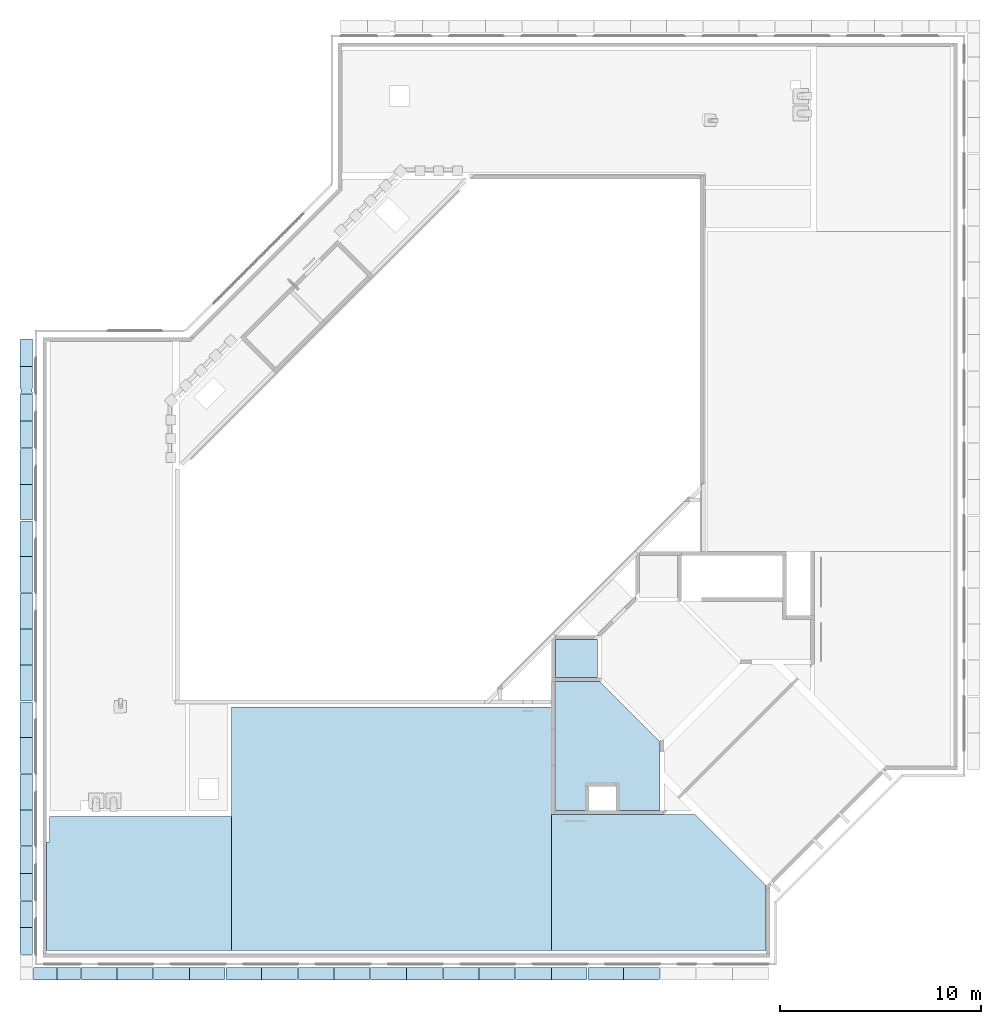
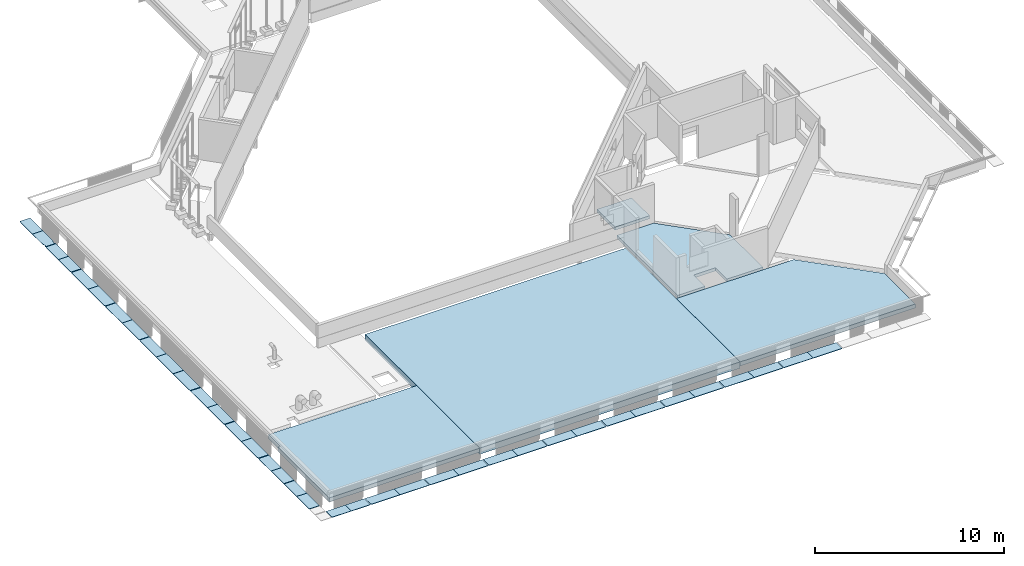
# One storey, part 5 of 37: 42 slabs.
"""IFC4X3_ADD2 building model written with IfcOpenShell, lengths in millimetres."""

from ifc_helpers import new_model, si_unit, direction, frame, frame_2d, origin_with_axes, origin_2d_with_axis, place, context, subcontext, project, spatial, polyline, rectangle, outline, extrude, material, type_object, element, save


model = new_model("IFC4X3_ADD2")

# Units and contexts
model_context = context("Model", 3, precision=1e-05, world=origin_with_axes(), true_north=direction((0.0, 1.0)))
body_context = subcontext(model_context, "Body", "Model", "MODEL_VIEW")
ifc_project = project(units=[si_unit("LENGTHUNIT", "METRE", prefix="MILLI"), si_unit("AREAUNIT", "SQUARE_METRE"), si_unit("VOLUMEUNIT", "CUBIC_METRE"), si_unit("PLANEANGLEUNIT", "RADIAN"), si_unit("TIMEUNIT", "SECOND"), si_unit("MASSUNIT", "GRAM")], contexts=[model_context])

# Site, building, storey
site_placement = place(None, origin_with_axes())
site = spatial("IfcSite", under=ifc_project, at=site_placement, Name="Site", CompositionType="ELEMENT")
building_placement = place(site_placement, origin_with_axes())
building = spatial("IfcBuilding", under=site, at=building_placement, Name="IFC Building Story")
storey_placement = place(building_placement, frame((0.0, 0.0, 14400.0), z_axis=(0.0, 0.0, 1.0), x_axis=(1.0, 0.0, 0.0)))
storey = spatial("IfcBuildingStorey", under=building, at=storey_placement, Name="040", Elevation=14400.0)

# Slabs
ifc_material_1 = material(Name="BB_Beton_Bestaand")
slab_type_1 = type_object("IfcSlabType", Name="BB_Beton_Bestaand 200", PredefinedType="FLOOR", material=ifc_material_1)
slab_1_placement = place(storey_placement, frame((-19899.99999999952, 13614.99999999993, -400.0), z_axis=(0.0, 0.0, 1.0), x_axis=(0.0, -1.0, 0.0)))
element("IfcSlab", 1, at=slab_1_placement, inside=storey, type_object=slab_type_1, Name="Floor:BB_XX_Vloer uit beton, 200 mm", ObjectType="Floor:BB_XX_Vloer uit beton, 200 mm", PredefinedType="FLOOR", context=body_context, shape_type="SweptSolid", body=[
    extrude(outline(polyline([(867.3666025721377, -769.563096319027), (2077.366602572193, -769.563096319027), (2077.366602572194, -2444.563096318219), (-4337.633397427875, -2444.563096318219), (-4337.633397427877, -213.2636731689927), (-1368.932820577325, 2755.43690368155), (2077.366602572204, 2755.43690368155), (2077.366602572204, 565.3211255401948), (867.3666025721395, 565.3211255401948), (867.3666025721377, -769.563096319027)])), frame((4337.633397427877, 2444.563096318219, 0.0), z_axis=(0.0, 0.0, 1.0), x_axis=(1.0, 0.0, 0.0)), (0.0, 0.0, 1.0), 200.0),
])
slab_2_placement = place(storey_placement, frame((-19900.0, 13815.00000000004, 0.0), z_axis=(0.0, 0.0, 1.0), x_axis=(1.0, 0.0, 0.0)))
element("IfcSlab", 2, at=slab_2_placement, inside=storey, type_object=slab_type_1, Name="Floor:BB_XX_Vloer uit beton, 200 mm", ObjectType="Floor:BB_XX_Vloer uit beton, 200 mm", PredefinedType="FLOOR", context=body_context, shape_type="SweptSolid", body=[
    extrude(rectangle(XDim=2110.0, YDim=1899.999999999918, at=origin_2d_with_axis()), frame((1054.999999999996, 949.9999999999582, 0.0), z_axis=(0.0, 0.0, 1.0), x_axis=(1.0, 0.0, 0.0)), (0.0, 0.0, 1.0), 200.0),
])
slab_type_2 = type_object("IfcSlabType", Name="BB_Beton_Bestaand 400", PredefinedType="FLOOR", material=ifc_material_1)
slab_3_placement = place(storey_placement, frame((-36000.00000000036, 245.0000000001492, -600.0), z_axis=(0.0, 0.0, 1.0), x_axis=(1.0, 0.0, 0.0)))
element("IfcSlab", 3, at=slab_3_placement, inside=storey, type_object=slab_type_2, Name="Floor:BB_XX_Vloer welfsels, 400 mm", ObjectType="Floor:BB_XX_Vloer welfsels, 400 mm", PredefinedType="FLOOR", context=body_context, shape_type="SweptSolid", body=[
    extrude(rectangle(XDim=15900.00000000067, YDim=12110.00406588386, at=origin_2d_with_axis()), frame((7950.000000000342, 6055.002032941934, 0.0), z_axis=(0.0, 0.0, 1.0), x_axis=(1.0, 0.0, 0.0)), (0.0, 0.0, 1.0), 400.0),
])
slab_type_3 = type_object("IfcSlabType", Name="BB_Beton_Bestaand 260", PredefinedType="FLOOR", material=ifc_material_1)
slab_4_placement = place(storey_placement, frame((-20099.99999999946, 245.0000000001, -459.9999999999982), z_axis=(0.0, 0.0, 1.0), x_axis=(1.0, 0.0, 0.0)))
element("IfcSlab", 4, at=slab_4_placement, inside=storey, type_object=slab_type_3, Name="Floor:BB_XX_Vloer welfsels, 260 mm", ObjectType="Floor:BB_XX_Vloer welfsels, 260 mm", PredefinedType="FLOOR", context=body_context, shape_type="SweptSolid", body=[
    extrude(outline(polyline([(4977.923555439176, -113.6942217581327), (4977.923555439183, -3349.076444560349), (-5707.076444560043, -3349.076444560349), (-5707.076444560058, 3405.923555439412), (1458.305778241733, 3405.923555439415), (4977.923555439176, -113.6942217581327)])), frame((5707.076444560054, 3349.076444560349, 1.818989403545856e-12), z_axis=(0.0, 0.0, 1.0), x_axis=(1.0, 0.0, 0.0)), (0.0, 0.0, 1.0), 259.999999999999),
])
slab_5_placement = place(storey_placement, frame((-45189.99999999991, 245.0000000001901, -459.9999999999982), z_axis=(0.0, 0.0, 1.0), x_axis=(1.0, 0.0, 0.0)))
element("IfcSlab", 5, at=slab_5_placement, inside=storey, type_object=slab_type_3, Name="Floor:BB_XX_Vloer welfsels, 260 mm", ObjectType="Floor:BB_XX_Vloer welfsels, 260 mm", PredefinedType="FLOOR", context=body_context, shape_type="SweptSolid", body=[
    extrude(outline(polyline([(6079.999999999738, 2643.333441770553), (6079.999999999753, -4021.666720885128), (-3109.999999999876, -4021.666720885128), (-3109.999999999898, 1378.333279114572), (-2969.999999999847, 1378.333279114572), (-2969.999999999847, 2643.333441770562), (6079.999999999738, 2643.333441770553)])), frame((3109.999999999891, 4021.666720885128, 0.0), z_axis=(0.0, 0.0, 1.0), x_axis=(1.0, 0.0, 0.0)), (0.0, 0.0, 1.0), 259.999999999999),
])
ifc_material_2 = material(Name="Steel, Galvanized - looprooster")
slab_type_4 = type_object("IfcSlabType", Name="Steel, Galvanized - looprooster 30", PredefinedType="FLOOR", material=ifc_material_2)
slab_6_placement = place(storey_placement, frame((-46519.9983978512, 30650.00006759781, -350.0), z_axis=(0.0, 0.0, 1.0), x_axis=(0.0, -1.0, 0.0)))
element("IfcSlab", 6, at=slab_6_placement, inside=storey, type_object=slab_type_4, Name="Floor:GVH - Looprooster 30 mm", ObjectType="Floor:GVH - Looprooster 30 mm", PredefinedType="FLOOR", context=body_context, shape_type="SweptSolid", body=[
    extrude(outline(polyline([(-478.9993679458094, 415.0), (872.9986320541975, 415.0), (872.9986320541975, -214.9999999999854), (-393.9992641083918, -214.9999999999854), (-393.9992641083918, -200.0), (-478.9993679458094, -200.0), (-478.9993679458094, 415.0)])), frame((478.9993679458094, 214.9999999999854, 0.0), z_axis=(0.0, 0.0, 1.0), x_axis=(1.0, 0.0, 0.0)), (0.0, 0.0, 1.0), 29.99999999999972),
])
slab_7_placement = place(storey_placement, frame((-46519.99839785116, 29296.99796376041, -350.0), z_axis=(0.0, 0.0, 1.0), x_axis=(0.0, -1.0, 0.0)))
element("IfcSlab", 7, at=slab_7_placement, inside=storey, type_object=slab_type_4, Name="Floor:GVH - Looprooster 30 mm", ObjectType="Floor:GVH - Looprooster 30 mm", PredefinedType="FLOOR", context=body_context, shape_type="SweptSolid", body=[
    extrude(outline(polyline([(275.3311999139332, -272.4994325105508), (85.33480009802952, -272.4994325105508), (85.33480009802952, -317.4994324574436), (-1026.66680008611, -317.4994324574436), (-1026.66680008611, 312.5005675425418), (85.33480008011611, 312.5005675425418), (85.33480008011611, 267.4971623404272), (255.3348000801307, 267.4971623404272), (255.3348000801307, 312.5005675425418), (325.3311999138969, 312.5005675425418), (325.3311999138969, -302.4994324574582), (275.3311999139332, -302.4994324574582), (275.3311999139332, -272.4994325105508)])), frame((1026.66680008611, 317.4994324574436, 0.0), z_axis=(0.0, 0.0, 1.0), x_axis=(1.0, 0.0, 0.0)), (0.0, 0.0, 1.0), 29.9999999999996),
])
slab_8_placement = place(storey_placement, frame((-46519.9983978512, 27914.99996376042, -350.0), z_axis=(0.0, 0.0, 1.0), x_axis=(0.0, -1.0, 0.0)))
element("IfcSlab", 8, at=slab_8_placement, inside=storey, type_object=slab_type_4, Name="Floor:GVH - Looprooster 30 mm", ObjectType="Floor:GVH - Looprooster 30 mm", PredefinedType="FLOOR", context=body_context, shape_type="SweptSolid", body=[
    extrude(outline(polyline([(-462.3340000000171, 415.0), (872.6679999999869, 415.0), (872.6679999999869, -214.9999999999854), (-410.3339999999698, -214.9999999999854), (-410.3339999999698, -200.0), (-462.3340000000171, -200.0), (-462.3340000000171, 415.0)])), frame((462.3340000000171, 214.9999999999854, 0.0), z_axis=(0.0, 0.0, 1.0), x_axis=(1.0, 0.0, 0.0)), (0.0, 0.0, 1.0), 29.99999999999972),
])
slab_9_placement = place(storey_placement, frame((-46519.9983978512, 26579.99796376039, -350.0), z_axis=(0.0, 0.0, 1.0), x_axis=(0.0, -1.0, 0.0)))
element("IfcSlab", 9, at=slab_9_placement, inside=storey, type_object=slab_type_4, Name="Floor:GVH - Looprooster 30 mm", ObjectType="Floor:GVH - Looprooster 30 mm", PredefinedType="FLOOR", context=body_context, shape_type="SweptSolid", body=[
    extrude(outline(polyline([(462.3340000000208, -200.0), (410.3339999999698, -200.0), (410.3339999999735, -214.9999999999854), (-872.6679999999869, -214.9999999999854), (-872.6679999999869, 415.0), (462.3340000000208, 415.0), (462.3340000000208, -200.0)])), frame((872.6679999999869, 214.9999999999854, 0.0), z_axis=(0.0, 0.0, 1.0), x_axis=(1.0, 0.0, 0.0)), (0.0, 0.0, 1.0), 29.99999999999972),
])
slab_10_placement = place(storey_placement, frame((-46519.9983978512, 25214.99996376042, -350.0), z_axis=(0.0, 0.0, 1.0), x_axis=(0.0, -1.0, 0.0)))
element("IfcSlab", 10, at=slab_10_placement, inside=storey, type_object=slab_type_4, Name="Floor:GVH - Looprooster 30 mm", ObjectType="Floor:GVH - Looprooster 30 mm", PredefinedType="FLOOR", context=body_context, shape_type="SweptSolid", body=[
    extrude(outline(polyline([(-612.3340000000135, 415.0), (1172.667999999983, 415.0), (1172.667999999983, -214.9999999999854), (-560.3339999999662, -214.9999999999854), (-560.3339999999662, -200.0), (-612.3340000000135, -200.0), (-612.3340000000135, 415.0)])), frame((612.3340000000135, 214.9999999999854, 0.0), z_axis=(0.0, 0.0, 1.0), x_axis=(1.0, 0.0, 0.0)), (0.0, 0.0, 1.0), 29.99999999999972),
])
slab_11_placement = place(storey_placement, frame((-46519.9983978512, 23429.99796376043, -350.0), z_axis=(0.0, 0.0, 1.0), x_axis=(0.0, -1.0, 0.0)))
element("IfcSlab", 11, at=slab_11_placement, inside=storey, type_object=slab_type_4, Name="Floor:GVH - Looprooster 30 mm", ObjectType="Floor:GVH - Looprooster 30 mm", PredefinedType="FLOOR", context=body_context, shape_type="SweptSolid", body=[
    extrude(outline(polyline([(612.3326666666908, -200.0), (560.3326666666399, -200.0), (560.3326666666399, -214.9999999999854), (-1172.665333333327, -214.9999999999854), (-1172.665333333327, 415.0), (612.3326666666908, 415.0), (612.3326666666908, -200.0)])), frame((1172.665333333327, 214.9999999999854, 0.0), z_axis=(0.0, 0.0, 1.0), x_axis=(1.0, 0.0, 0.0)), (0.0, 0.0, 1.0), 29.99999999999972),
])
slab_12_placement = place(storey_placement, frame((-46519.9983978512, 21614.99996376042, -350.0), z_axis=(0.0, 0.0, 1.0), x_axis=(0.0, -1.0, 0.0)))
element("IfcSlab", 12, at=slab_12_placement, inside=storey, type_object=slab_type_4, Name="Floor:GVH - Looprooster 30 mm", ObjectType="Floor:GVH - Looprooster 30 mm", PredefinedType="FLOOR", context=body_context, shape_type="SweptSolid", body=[
    extrude(outline(polyline([(-612.3340000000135, 415.0), (1172.667999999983, 415.0), (1172.667999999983, -214.9999999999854), (-560.3339999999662, -214.9999999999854), (-560.3339999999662, -200.0), (-612.3340000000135, -200.0), (-612.3340000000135, 415.0)])), frame((612.3340000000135, 214.9999999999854, 0.0), z_axis=(0.0, 0.0, 1.0), x_axis=(1.0, 0.0, 0.0)), (0.0, 0.0, 1.0), 29.99999999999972),
])
slab_13_placement = place(storey_placement, frame((-46519.9983978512, 19829.99796376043, -350.0), z_axis=(0.0, 0.0, 1.0), x_axis=(0.0, -1.0, 0.0)))
element("IfcSlab", 13, at=slab_13_placement, inside=storey, type_object=slab_type_4, Name="Floor:GVH - Looprooster 30 mm", ObjectType="Floor:GVH - Looprooster 30 mm", PredefinedType="FLOOR", context=body_context, shape_type="SweptSolid", body=[
    extrude(outline(polyline([(612.3326666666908, -200.0), (560.3326666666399, -200.0), (560.3326666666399, -214.9999999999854), (-1172.665333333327, -214.9999999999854), (-1172.665333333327, 415.0), (612.3326666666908, 415.0), (612.3326666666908, -200.0)])), frame((1172.665333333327, 214.9999999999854, 0.0), z_axis=(0.0, 0.0, 1.0), x_axis=(1.0, 0.0, 0.0)), (0.0, 0.0, 1.0), 29.99999999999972),
])
slab_14_placement = place(storey_placement, frame((-46519.9983978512, 18014.99996376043, -350.0), z_axis=(0.0, 0.0, 1.0), x_axis=(0.0, -1.0, 0.0)))
element("IfcSlab", 14, at=slab_14_placement, inside=storey, type_object=slab_type_4, Name="Floor:GVH - Looprooster 30 mm", ObjectType="Floor:GVH - Looprooster 30 mm", PredefinedType="FLOOR", context=body_context, shape_type="SweptSolid", body=[
    extrude(outline(polyline([(-613.6660000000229, 415.0), (1175.332000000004, 415.0), (1175.332000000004, -214.9999999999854), (-561.6659999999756, -214.9999999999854), (-561.6659999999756, -200.0), (-613.6660000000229, -200.0), (-613.6660000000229, 415.0)])), frame((613.6660000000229, 214.9999999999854, 0.0), z_axis=(0.0, 0.0, 1.0), x_axis=(1.0, 0.0, 0.0)), (0.0, 0.0, 1.0), 29.99999999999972),
])
slab_15_placement = place(storey_placement, frame((-46519.99839785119, 16224.4999637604, -350.0), z_axis=(0.0, 0.0, 1.0), x_axis=(0.0, -1.0, 0.0)))
element("IfcSlab", 15, at=slab_15_placement, inside=storey, type_object=slab_type_4, Name="Floor:GVH - Looprooster 30 mm", ObjectType="Floor:GVH - Looprooster 30 mm", PredefinedType="FLOOR", context=body_context, shape_type="SweptSolid", body=[
    extrude(rectangle(XDim=1789.0, YDim=629.9999999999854, at=frame_2d((0.0, 0.0), x_axis=(-1.0, 0.0))), frame((894.5, 314.9999999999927, 0.0), z_axis=(0.0, 0.0, 1.0), x_axis=(1.0, 0.0, 0.0)), (0.0, 0.0, 1.0), 29.99999999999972),
])
slab_16_placement = place(storey_placement, frame((-46520.00125884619, 14433.99796376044, -350.0), z_axis=(0.0, 0.0, 1.0), x_axis=(0.0, -1.0, 0.0)))
element("IfcSlab", 16, at=slab_16_placement, inside=storey, type_object=slab_type_4, Name="Floor:GVH - Looprooster 30 mm", ObjectType="Floor:GVH - Looprooster 30 mm", PredefinedType="FLOOR", context=body_context, shape_type="SweptSolid", body=[
    extrude(outline(polyline([(625.3326666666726, -200.0000000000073), (538.3326666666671, -200.0000000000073), (538.3326666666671, -214.9999999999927), (-1163.665333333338, -214.9999999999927), (-1163.665333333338, 414.9999999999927), (625.3326666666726, 414.9999999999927), (625.3326666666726, -200.0000000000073)])), frame((1163.665333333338, 214.9999999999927, 0.0), z_axis=(0.0, 0.0, 1.0), x_axis=(1.0, 0.0, 0.0)), (0.0, 0.0, 1.0), 29.99999999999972),
])
slab_17_placement = place(storey_placement, frame((-46520.0012588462, 12614.99996376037, -350.0), z_axis=(0.0, 0.0, 1.0), x_axis=(0.0, -1.0, 0.0)))
element("IfcSlab", 17, at=slab_17_placement, inside=storey, type_object=slab_type_4, Name="Floor:GVH - Looprooster 30 mm", ObjectType="Floor:GVH - Looprooster 30 mm", PredefinedType="FLOOR", context=body_context, shape_type="SweptSolid", body=[
    extrude(outline(polyline([(-624.0006666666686, 414.9999999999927), (1161.001333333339, 414.9999999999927), (1161.001333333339, -214.9999999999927), (-537.0006666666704, -214.9999999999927), (-537.0006666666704, -200.0000000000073), (-624.0006666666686, -200.0000000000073), (-624.0006666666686, 414.9999999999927)])), frame((624.0006666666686, 214.9999999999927, 0.0), z_axis=(0.0, 0.0, 1.0), x_axis=(1.0, 0.0, 0.0)), (0.0, 0.0, 1.0), 29.99999999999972),
])
slab_18_placement = place(storey_placement, frame((-46520.00125884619, 10829.99796376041, -350.0), z_axis=(0.0, 0.0, 1.0), x_axis=(0.0, -1.0, 0.0)))
element("IfcSlab", 18, at=slab_18_placement, inside=storey, type_object=slab_type_4, Name="Floor:GVH - Looprooster 30 mm", ObjectType="Floor:GVH - Looprooster 30 mm", PredefinedType="FLOOR", context=body_context, shape_type="SweptSolid", body=[
    extrude(outline(polyline([(612.3326666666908, -200.0), (560.3326666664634, -200.0000000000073), (560.3326666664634, -214.9999999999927), (-1172.665333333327, -214.9999999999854), (-1172.665333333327, 415.0), (612.3326666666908, 415.0), (612.3326666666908, -200.0)])), frame((1172.665333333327, 214.9999999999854, 0.0), z_axis=(0.0, 0.0, 1.0), x_axis=(1.0, 0.0, 0.0)), (0.0, 0.0, 1.0), 29.99999999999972),
])
slab_19_placement = place(storey_placement, frame((-46519.9983978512, 9014.999963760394, -350.0), z_axis=(0.0, 0.0, 1.0), x_axis=(0.0, -1.0, 0.0)))
element("IfcSlab", 19, at=slab_19_placement, inside=storey, type_object=slab_type_4, Name="Floor:GVH - Looprooster 30 mm", ObjectType="Floor:GVH - Looprooster 30 mm", PredefinedType="FLOOR", context=body_context, shape_type="SweptSolid", body=[
    extrude(outline(polyline([(-612.3340000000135, 415.0), (1172.667999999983, 415.0), (1172.667999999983, -214.9999999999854), (-560.3339999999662, -214.9999999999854), (-560.3339999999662, -200.0), (-612.3340000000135, -200.0), (-612.3340000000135, 415.0)])), frame((612.3340000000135, 214.9999999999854, 0.0), z_axis=(0.0, 0.0, 1.0), x_axis=(1.0, 0.0, 0.0)), (0.0, 0.0, 1.0), 29.99999999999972),
])
slab_20_placement = place(storey_placement, frame((-46519.9983978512, 7229.99796376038, -350.0), z_axis=(0.0, 0.0, 1.0), x_axis=(0.0, -1.0, 0.0)))
element("IfcSlab", 20, at=slab_20_placement, inside=storey, type_object=slab_type_4, Name="Floor:GVH - Looprooster 30 mm", ObjectType="Floor:GVH - Looprooster 30 mm", PredefinedType="FLOOR", context=body_context, shape_type="SweptSolid", body=[
    extrude(outline(polyline([(612.3326666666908, -200.0), (560.3326666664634, -200.0000000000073), (560.3326666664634, -214.9999999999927), (-1172.665333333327, -214.9999999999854), (-1172.665333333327, 415.0), (612.3326666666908, 415.0), (612.3326666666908, -200.0)])), frame((1172.665333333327, 214.9999999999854, 0.0), z_axis=(0.0, 0.0, 1.0), x_axis=(1.0, 0.0, 0.0)), (0.0, 0.0, 1.0), 29.99999999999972),
])
slab_21_placement = place(storey_placement, frame((-46519.9983978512, 5414.999963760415, -350.0), z_axis=(0.0, 0.0, 1.0), x_axis=(0.0, -1.0, 0.0)))
element("IfcSlab", 21, at=slab_21_placement, inside=storey, type_object=slab_type_4, Name="Floor:GVH - Looprooster 30 mm", ObjectType="Floor:GVH - Looprooster 30 mm", PredefinedType="FLOOR", context=body_context, shape_type="SweptSolid", body=[
    extrude(outline(polyline([(-462.3340000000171, 415.0), (872.6679999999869, 415.0), (872.6679999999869, -214.9999999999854), (-410.3339999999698, -214.9999999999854), (-410.3339999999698, -200.0), (-462.3340000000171, -200.0), (-462.3340000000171, 415.0)])), frame((462.3340000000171, 214.9999999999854, 0.0), z_axis=(0.0, 0.0, 1.0), x_axis=(1.0, 0.0, 0.0)), (0.0, 0.0, 1.0), 29.99999999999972),
])
slab_22_placement = place(storey_placement, frame((-46519.9983978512, 4079.997963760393, -350.0), z_axis=(0.0, 0.0, 1.0), x_axis=(0.0, -1.0, 0.0)))
element("IfcSlab", 22, at=slab_22_placement, inside=storey, type_object=slab_type_4, Name="Floor:GVH - Looprooster 30 mm", ObjectType="Floor:GVH - Looprooster 30 mm", PredefinedType="FLOOR", context=body_context, shape_type="SweptSolid", body=[
    extrude(outline(polyline([(462.332666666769, -200.0), (410.3326666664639, -200.0), (410.3326666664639, -214.9999999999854), (-872.6653333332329, -214.9999999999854), (-872.6653333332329, 415.0), (462.332666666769, 415.0), (462.332666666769, -200.0)])), frame((872.6653333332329, 214.9999999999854, 0.0), z_axis=(0.0, 0.0, 1.0), x_axis=(1.0, 0.0, 0.0)), (0.0, 0.0, 1.0), 29.99999999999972),
])
slab_23_placement = place(storey_placement, frame((-46519.9983978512, 2714.999963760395, -350.0), z_axis=(0.0, 0.0, 1.0), x_axis=(0.0, -1.0, 0.0)))
element("IfcSlab", 23, at=slab_23_placement, inside=storey, type_object=slab_type_4, Name="Floor:GVH - Looprooster 30 mm", ObjectType="Floor:GVH - Looprooster 30 mm", PredefinedType="FLOOR", context=body_context, shape_type="SweptSolid", body=[
    extrude(outline(polyline([(-462.3340000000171, 415.0), (872.6679999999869, 415.0), (872.6679999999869, -214.9999999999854), (-410.3339999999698, -214.9999999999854), (-410.3339999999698, -200.0), (-462.3340000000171, -200.0), (-462.3340000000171, 415.0)])), frame((462.3340000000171, 214.9999999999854, 0.0), z_axis=(0.0, 0.0, 1.0), x_axis=(1.0, 0.0, 0.0)), (0.0, 0.0, 1.0), 29.99999999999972),
])
slab_24_placement = place(storey_placement, frame((-46519.9983978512, 1379.997963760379, -350.0), z_axis=(0.0, 0.0, 1.0), x_axis=(0.0, -1.0, 0.0)))
element("IfcSlab", 24, at=slab_24_placement, inside=storey, type_object=slab_type_4, Name="Floor:GVH - Looprooster 30 mm", ObjectType="Floor:GVH - Looprooster 30 mm", PredefinedType="FLOOR", context=body_context, shape_type="SweptSolid", body=[
    extrude(outline(polyline([(462.332666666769, -200.0), (410.3326666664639, -200.0), (410.3326666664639, -214.9999999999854), (-872.6653333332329, -214.9999999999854), (-872.6653333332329, 415.0), (462.332666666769, 415.0), (462.332666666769, -200.0)])), frame((872.6653333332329, 214.9999999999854, 0.0), z_axis=(0.0, 0.0, 1.0), x_axis=(1.0, 0.0, 0.0)), (0.0, 0.0, 1.0), 29.99999999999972),
])
slab_25_placement = place(storey_placement, frame((-45851.5001068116, -1219.998397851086, -350.0), z_axis=(0.0, 0.0, 1.0), x_axis=(1.0, 0.0, 0.0)))
element("IfcSlab", 25, at=slab_25_placement, inside=storey, type_object=slab_type_4, Name="Floor:GVH - Looprooster 30 mm", ObjectType="Floor:GVH - Looprooster 30 mm", PredefinedType="FLOOR", context=body_context, shape_type="SweptSolid", body=[
    extrude(rectangle(XDim=1167.998000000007, YDim=629.9996566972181, at=origin_2d_with_axis()), frame((583.9990000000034, 314.9998283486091, 0.0), z_axis=(0.0, 0.0, 1.0), x_axis=(1.0, 0.0, 0.0)), (0.0, 0.0, 1.0), 29.99999999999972),
])
slab_26_placement = place(storey_placement, frame((-44683.50210681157, -1219.996452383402, -350.0), z_axis=(0.0, 0.0, 1.0), x_axis=(1.0, 0.0, 0.0)))
element("IfcSlab", 26, at=slab_26_placement, inside=storey, type_object=slab_type_4, Name="Floor:GVH - Looprooster 30 mm", ObjectType="Floor:GVH - Looprooster 30 mm", PredefinedType="FLOOR", context=body_context, shape_type="SweptSolid", body=[
    extrude(outline(polyline([(354.8340356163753, -200.0000000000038), (354.8340356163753, -214.9999999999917), (-761.6680712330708, -214.9999999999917), (-761.6680712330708, 414.9999999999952), (406.8340356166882, 414.9999999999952), (406.8340356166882, -200.0000000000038), (354.8340356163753, -200.0000000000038)])), frame((761.6680712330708, 214.9999999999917, 0.0), z_axis=(0.0, 0.0, 1.0), x_axis=(1.0, 0.0, 0.0)), (0.0, 0.0, 1.0), 29.99999999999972),
])
slab_27_placement = place(storey_placement, frame((-43484.99999996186, -1219.996452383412, -350.0), z_axis=(0.0, 0.0, 1.0), x_axis=(1.0, 0.0, 0.0)))
element("IfcSlab", 27, at=slab_27_placement, inside=storey, type_object=slab_type_4, Name="Floor:GVH - Looprooster 30 mm", ObjectType="Floor:GVH - Looprooster 30 mm", PredefinedType="FLOOR", context=body_context, shape_type="SweptSolid", body=[
    extrude(outline(polyline([(-560.3326666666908, -214.9999999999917), (-560.3326666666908, -200.0000000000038), (-612.3326666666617, -200.0000000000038), (-612.3326666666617, 414.9999999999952), (1172.665333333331, 414.9999999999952), (1172.665333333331, -214.9999999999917), (-560.3326666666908, -214.9999999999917)])), frame((612.3326666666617, 214.9999999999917, 0.0), z_axis=(0.0, 0.0, 1.0), x_axis=(1.0, 0.0, 0.0)), (0.0, 0.0, 1.0), 29.99999999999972),
])
slab_28_placement = place(storey_placement, frame((-41700.00199996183, -1219.998741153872, -350.0), z_axis=(0.0, 0.0, 1.0), x_axis=(1.0, 0.0, 0.0)))
element("IfcSlab", 28, at=slab_28_placement, inside=storey, type_object=slab_type_4, Name="Floor:GVH - Looprooster 30 mm", ObjectType="Floor:GVH - Looprooster 30 mm", PredefinedType="FLOOR", context=body_context, shape_type="SweptSolid", body=[
    extrude(outline(polyline([(560.3340120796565, -200.0000000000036), (560.3340120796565, -214.9999999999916), (-1172.668024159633, -214.9999999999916), (-1172.668024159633, 414.9999999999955), (612.3340120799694, 414.9999999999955), (612.3340120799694, -200.0000000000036), (560.3340120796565, -200.0000000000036)])), frame((1172.668024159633, 214.9999999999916, 0.0), z_axis=(0.0, 0.0, 1.0), x_axis=(1.0, 0.0, 0.0)), (0.0, 0.0, 1.0), 29.99999999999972),
])
slab_29_placement = place(storey_placement, frame((-39884.99996372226, -1219.998741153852, -350.0), z_axis=(0.0, 0.0, 1.0), x_axis=(1.0, 0.0, 0.0)))
element("IfcSlab", 29, at=slab_29_placement, inside=storey, type_object=slab_type_4, Name="Floor:GVH - Looprooster 30 mm", ObjectType="Floor:GVH - Looprooster 30 mm", PredefinedType="FLOOR", context=body_context, shape_type="SweptSolid", body=[
    extrude(outline(polyline([(-560.3326666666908, -214.9999999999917), (-560.3326666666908, -200.0000000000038), (-612.3326666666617, -200.0000000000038), (-612.3326666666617, 414.9999999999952), (1172.665333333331, 414.9999999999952), (1172.665333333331, -214.9999999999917), (-560.3326666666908, -214.9999999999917)])), frame((612.3326666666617, 214.9999999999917, 0.0), z_axis=(0.0, 0.0, 1.0), x_axis=(1.0, 0.0, 0.0)), (0.0, 0.0, 1.0), 29.99999999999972),
])
slab_30_placement = place(storey_placement, frame((-38100.00196372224, -1220.001029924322, -350.0), z_axis=(0.0, 0.0, 1.0), x_axis=(1.0, 0.0, 0.0)))
element("IfcSlab", 30, at=slab_30_placement, inside=storey, type_object=slab_type_4, Name="Floor:GVH - Looprooster 30 mm", ObjectType="Floor:GVH - Looprooster 30 mm", PredefinedType="FLOOR", context=body_context, shape_type="SweptSolid", body=[
    extrude(outline(polyline([(560.3340120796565, -200.0000000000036), (560.3340120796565, -214.9999999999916), (-1172.668024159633, -214.9999999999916), (-1172.668024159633, 414.9999999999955), (612.3340120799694, 414.9999999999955), (612.3340120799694, -200.0000000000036), (560.3340120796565, -200.0000000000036)])), frame((1172.668024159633, 214.9999999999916, 0.0), z_axis=(0.0, 0.0, 1.0), x_axis=(1.0, 0.0, 0.0)), (0.0, 0.0, 1.0), 29.99999999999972),
])
slab_31_placement = place(storey_placement, frame((-36284.99996372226, -1219.998741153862, -350.0), z_axis=(0.0, 0.0, 1.0), x_axis=(1.0, 0.0, 0.0)))
element("IfcSlab", 31, at=slab_31_placement, inside=storey, type_object=slab_type_4, Name="Floor:GVH - Looprooster 30 mm", ObjectType="Floor:GVH - Looprooster 30 mm", PredefinedType="FLOOR", context=body_context, shape_type="SweptSolid", body=[
    extrude(outline(polyline([(-560.3326666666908, -214.9999999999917), (-560.3326666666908, -200.0000000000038), (-612.3326666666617, -200.0000000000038), (-612.3326666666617, 414.9999999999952), (1172.665333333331, 414.9999999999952), (1172.665333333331, -214.9999999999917), (-560.3326666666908, -214.9999999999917)])), frame((612.3326666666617, 214.9999999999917, 0.0), z_axis=(0.0, 0.0, 1.0), x_axis=(1.0, 0.0, 0.0)), (0.0, 0.0, 1.0), 29.99999999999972),
])
slab_32_placement = place(storey_placement, frame((-34500.00196372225, -1220.001029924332, -350.0), z_axis=(0.0, 0.0, 1.0), x_axis=(1.0, 0.0, 0.0)))
element("IfcSlab", 32, at=slab_32_placement, inside=storey, type_object=slab_type_4, Name="Floor:GVH - Looprooster 30 mm", ObjectType="Floor:GVH - Looprooster 30 mm", PredefinedType="FLOOR", context=body_context, shape_type="SweptSolid", body=[
    extrude(outline(polyline([(537.0006545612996, -200.0000000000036), (537.0006545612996, -214.9999999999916), (-1161.001345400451, -214.9999999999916), (-1161.001345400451, 414.9999999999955), (624.0006908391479, 414.9999999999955), (624.0006908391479, -200.0000000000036), (537.0006545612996, -200.0000000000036)])), frame((1161.001345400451, 214.9999999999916, 0.0), z_axis=(0.0, 0.0, 1.0), x_axis=(1.0, 0.0, 0.0)), (0.0, 0.0, 1.0), 29.99999999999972),
])
slab_33_placement = place(storey_placement, frame((-32684.99996376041, -1219.998741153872, -350.0), z_axis=(0.0, 0.0, 1.0), x_axis=(1.0, 0.0, 0.0)))
element("IfcSlab", 33, at=slab_33_placement, inside=storey, type_object=slab_type_4, Name="Floor:GVH - Looprooster 30 mm", ObjectType="Floor:GVH - Looprooster 30 mm", PredefinedType="FLOOR", context=body_context, shape_type="SweptSolid", body=[
    extrude(outline(polyline([(-536.9993333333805, -214.9999999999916), (-536.9993333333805, -200.0000000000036), (-623.9993333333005, -200.0000000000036), (-623.9993333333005, 414.9999999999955), (1160.998666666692, 414.9999999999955), (1160.998666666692, -214.9999999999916), (-536.9993333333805, -214.9999999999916)])), frame((623.9993333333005, 214.9999999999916, 0.0), z_axis=(0.0, 0.0, 1.0), x_axis=(1.0, 0.0, 0.0)), (0.0, 0.0, 1.0), 29.99999999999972),
])
slab_34_placement = place(storey_placement, frame((-30900.00196376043, -1220.001029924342, -350.0), z_axis=(0.0, 0.0, 1.0), x_axis=(1.0, 0.0, 0.0)))
element("IfcSlab", 34, at=slab_34_placement, inside=storey, type_object=slab_type_4, Name="Floor:GVH - Looprooster 30 mm", ObjectType="Floor:GVH - Looprooster 30 mm", PredefinedType="FLOOR", context=body_context, shape_type="SweptSolid", body=[
    extrude(outline(polyline([(560.3340120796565, -200.0000000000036), (560.3340120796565, -214.9999999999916), (-1172.668024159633, -214.9999999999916), (-1172.668024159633, 414.9999999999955), (612.3340120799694, 414.9999999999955), (612.3340120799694, -200.0000000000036), (560.3340120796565, -200.0000000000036)])), frame((1172.668024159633, 214.9999999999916, 0.0), z_axis=(0.0, 0.0, 1.0), x_axis=(1.0, 0.0, 0.0)), (0.0, 0.0, 1.0), 29.99999999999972),
])
slab_35_placement = place(storey_placement, frame((-29084.99996372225, -1219.998741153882, -350.0), z_axis=(0.0, 0.0, 1.0), x_axis=(1.0, 0.0, 0.0)))
element("IfcSlab", 35, at=slab_35_placement, inside=storey, type_object=slab_type_4, Name="Floor:GVH - Looprooster 30 mm", ObjectType="Floor:GVH - Looprooster 30 mm", PredefinedType="FLOOR", context=body_context, shape_type="SweptSolid", body=[
    extrude(outline(polyline([(-560.3326666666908, -214.9999999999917), (-560.3326666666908, -200.0000000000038), (-612.3326666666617, -200.0000000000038), (-612.3326666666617, 414.9999999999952), (1172.665333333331, 414.9999999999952), (1172.665333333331, -214.9999999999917), (-560.3326666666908, -214.9999999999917)])), frame((612.3326666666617, 214.9999999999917, 0.0), z_axis=(0.0, 0.0, 1.0), x_axis=(1.0, 0.0, 0.0)), (0.0, 0.0, 1.0), 29.99999999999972),
])
slab_36_placement = place(storey_placement, frame((-27300.00196372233, -1220.001029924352, -350.0), z_axis=(0.0, 0.0, 1.0), x_axis=(1.0, 0.0, 0.0)))
element("IfcSlab", 36, at=slab_36_placement, inside=storey, type_object=slab_type_4, Name="Floor:GVH - Looprooster 30 mm", ObjectType="Floor:GVH - Looprooster 30 mm", PredefinedType="FLOOR", context=body_context, shape_type="SweptSolid", body=[
    extrude(outline(polyline([(560.3340120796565, -200.0000000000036), (560.3340120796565, -214.9999999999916), (-1172.668024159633, -214.9999999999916), (-1172.668024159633, 414.9999999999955), (612.3340120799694, 414.9999999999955), (612.3340120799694, -200.0000000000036), (560.3340120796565, -200.0000000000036)])), frame((1172.668024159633, 214.9999999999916, 0.0), z_axis=(0.0, 0.0, 1.0), x_axis=(1.0, 0.0, 0.0)), (0.0, 0.0, 1.0), 29.99999999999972),
])
slab_37_placement = place(storey_placement, frame((-25484.99996372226, -1219.998741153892, -350.0), z_axis=(0.0, 0.0, 1.0), x_axis=(1.0, 0.0, 0.0)))
element("IfcSlab", 37, at=slab_37_placement, inside=storey, type_object=slab_type_4, Name="Floor:GVH - Looprooster 30 mm", ObjectType="Floor:GVH - Looprooster 30 mm", PredefinedType="FLOOR", context=body_context, shape_type="SweptSolid", body=[
    extrude(outline(polyline([(-560.3326666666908, -214.9999999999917), (-560.3326666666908, -200.0000000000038), (-612.3326666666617, -200.0000000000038), (-612.3326666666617, 414.9999999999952), (1172.665333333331, 414.9999999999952), (1172.665333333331, -214.9999999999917), (-560.3326666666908, -214.9999999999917)])), frame((612.3326666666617, 214.9999999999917, 0.0), z_axis=(0.0, 0.0, 1.0), x_axis=(1.0, 0.0, 0.0)), (0.0, 0.0, 1.0), 29.99999999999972),
])
slab_38_placement = place(storey_placement, frame((-23700.00196372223, -1220.001029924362, -350.0), z_axis=(0.0, 0.0, 1.0), x_axis=(1.0, 0.0, 0.0)))
element("IfcSlab", 38, at=slab_38_placement, inside=storey, type_object=slab_type_4, Name="Floor:GVH - Looprooster 30 mm", ObjectType="Floor:GVH - Looprooster 30 mm", PredefinedType="FLOOR", context=body_context, shape_type="SweptSolid", body=[
    extrude(outline(polyline([(560.3340120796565, -200.0000000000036), (560.3340120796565, -214.9999999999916), (-1172.668024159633, -214.9999999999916), (-1172.668024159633, 414.9999999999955), (612.3340120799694, 414.9999999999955), (612.3340120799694, -200.0000000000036), (560.3340120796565, -200.0000000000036)])), frame((1172.668024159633, 214.9999999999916, 0.0), z_axis=(0.0, 0.0, 1.0), x_axis=(1.0, 0.0, 0.0)), (0.0, 0.0, 1.0), 29.99999999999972),
])
slab_39_placement = place(storey_placement, frame((-21884.99996372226, -1219.998741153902, -350.0), z_axis=(0.0, 0.0, 1.0), x_axis=(1.0, 0.0, 0.0)))
element("IfcSlab", 39, at=slab_39_placement, inside=storey, type_object=slab_type_4, Name="Floor:GVH - Looprooster 30 mm", ObjectType="Floor:GVH - Looprooster 30 mm", PredefinedType="FLOOR", context=body_context, shape_type="SweptSolid", body=[
    extrude(outline(polyline([(-560.3326666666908, -214.9999999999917), (-560.3326666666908, -200.0000000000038), (-612.3326666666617, -200.0000000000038), (-612.3326666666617, 414.9999999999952), (1172.665333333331, 414.9999999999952), (1172.665333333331, -214.9999999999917), (-560.3326666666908, -214.9999999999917)])), frame((612.3326666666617, 214.9999999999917, 0.0), z_axis=(0.0, 0.0, 1.0), x_axis=(1.0, 0.0, 0.0)), (0.0, 0.0, 1.0), 29.99999999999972),
])
slab_40_placement = place(storey_placement, frame((-20100.00196372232, -1220.001029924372, -350.0), z_axis=(0.0, 0.0, 1.0), x_axis=(1.0, 0.0, 0.0)))
element("IfcSlab", 40, at=slab_40_placement, inside=storey, type_object=slab_type_4, Name="Floor:GVH - Looprooster 30 mm", ObjectType="Floor:GVH - Looprooster 30 mm", PredefinedType="FLOOR", context=body_context, shape_type="SweptSolid", body=[
    extrude(outline(polyline([(560.3340120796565, -200.0000000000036), (560.3340120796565, -214.9999999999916), (-1172.668024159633, -214.9999999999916), (-1172.668024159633, 414.9999999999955), (612.3340120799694, 414.9999999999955), (612.3340120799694, -200.0000000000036), (560.3340120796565, -200.0000000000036)])), frame((1172.668024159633, 214.9999999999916, 0.0), z_axis=(0.0, 0.0, 1.0), x_axis=(1.0, 0.0, 0.0)), (0.0, 0.0, 1.0), 29.99999999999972),
])
slab_41_placement = place(storey_placement, frame((-18284.99996372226, -1219.998741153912, -350.0), z_axis=(0.0, 0.0, 1.0), x_axis=(1.0, 0.0, 0.0)))
element("IfcSlab", 41, at=slab_41_placement, inside=storey, type_object=slab_type_4, Name="Floor:GVH - Looprooster 30 mm", ObjectType="Floor:GVH - Looprooster 30 mm", PredefinedType="FLOOR", context=body_context, shape_type="SweptSolid", body=[
    extrude(outline(polyline([(-560.3326666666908, -214.9999999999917), (-560.3326666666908, -200.0000000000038), (-612.3326666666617, -200.0000000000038), (-612.3326666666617, 414.9999999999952), (1172.665333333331, 414.9999999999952), (1172.665333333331, -214.9999999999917), (-560.3326666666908, -214.9999999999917)])), frame((612.3326666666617, 214.9999999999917, 0.0), z_axis=(0.0, 0.0, 1.0), x_axis=(1.0, 0.0, 0.0)), (0.0, 0.0, 1.0), 29.99999999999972),
])
slab_42_placement = place(storey_placement, frame((-16500.00196372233, -1220.001029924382, -350.0), z_axis=(0.0, 0.0, 1.0), x_axis=(1.0, 0.0, 0.0)))
element("IfcSlab", 42, at=slab_42_placement, inside=storey, type_object=slab_type_4, Name="Floor:GVH - Looprooster 30 mm", ObjectType="Floor:GVH - Looprooster 30 mm", PredefinedType="FLOOR", context=body_context, shape_type="SweptSolid", body=[
    extrude(outline(polyline([(560.3340120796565, -200.0000000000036), (560.3340120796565, -214.9999999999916), (-1172.668024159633, -214.9999999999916), (-1172.668024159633, 414.9999999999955), (612.3340120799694, 414.9999999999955), (612.3340120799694, -200.0000000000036), (560.3340120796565, -200.0000000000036)])), frame((1172.668024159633, 214.9999999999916, 0.0), z_axis=(0.0, 0.0, 1.0), x_axis=(1.0, 0.0, 0.0)), (0.0, 0.0, 1.0), 29.99999999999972),
])

save(model, "model.ifc")
